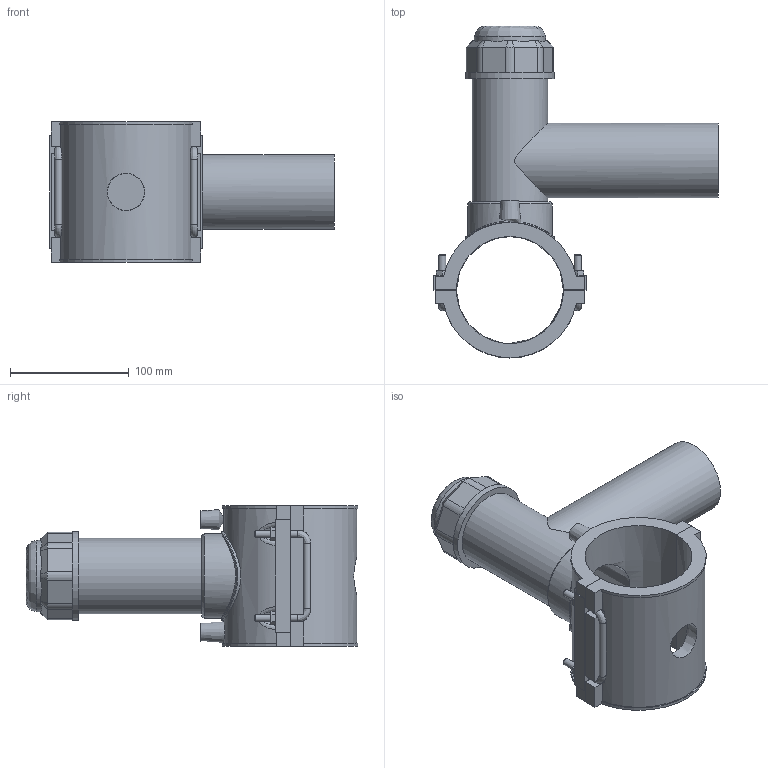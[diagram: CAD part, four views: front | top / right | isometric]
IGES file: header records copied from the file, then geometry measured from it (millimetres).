
Global section: file name: 496304090063.ipt; native system: Autodesk Inventor 2015; preprocessor: unknown; author: KIM; date: 20190124.130806; units: millimetre
Bounding box: 239 x 278.92 x 118 mm (x, y, z)
Volume: 887549.2 mm3; surface area: 212869.8 mm2
Topology: 2 solids, 4 shells, 212 faces, 538 edges, 350 vertices
Faces by surface type: plane 126, cylinder 38, revolution 28, cone 15, bspline 5
Full cylindrical faces by diameter (mm): 4 x2, 6 x8, 59.76 x1, 63 x1, 63.495 x1, 70.965 x1, 74.7 x2
